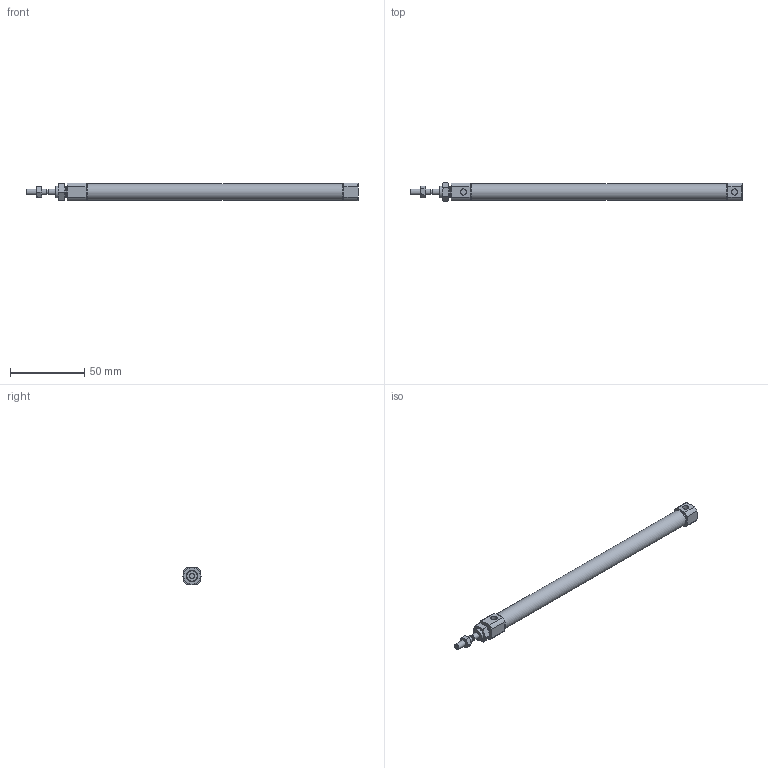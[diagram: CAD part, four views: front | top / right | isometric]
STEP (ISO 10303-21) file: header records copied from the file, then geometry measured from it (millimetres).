
FILE_DESCRIPTION((''),'2;1');
FILE_NAME('I:\3D電子目錄\氣缸\SBA\SBA\SBA10\SBA10x150.stp','2007-10-04T11:43:44',('66-2f-008'),(''),'Autodesk Inventor 11','Autodesk Inventor 11','');
FILE_SCHEMA(('AUTOMOTIVE_DESIGN { 1 0 10303 214 1 1 1 1 }'));
Length unit declared in the file: millimetre
Products named in the file (1): SBA10
Bounding box: 224 x 12.7 x 12 mm (x, y, z)
Volume: 21164 mm3; surface area: 8342.7 mm2
Topology: 1 solids, 1 shells, 88 faces, 186 edges, 113 vertices
Faces by surface type: plane 35, cone 30, cylinder 18, bspline 5
Full cylindrical faces by diameter (mm): 3.2 x1, 4 x3, 8 x3, 10.7 x2, 11.3 x1
Entity records: 2337 total; most frequent: CARTESIAN_POINT 609, DIRECTION 352, ORIENTED_EDGE 342, EDGE_CURVE 171, AXIS2_PLACEMENT_3D 153, EDGE_LOOP 116, VERTEX_POINT 113, FACE_OUTER_BOUND 88
